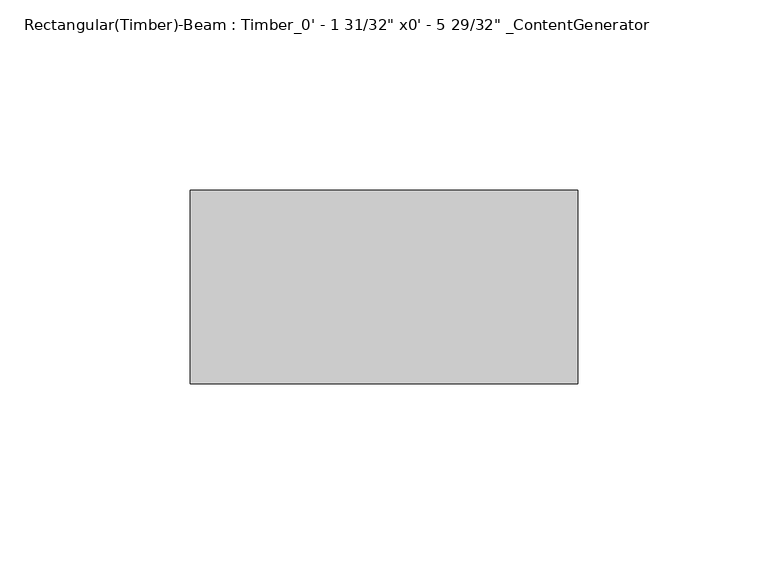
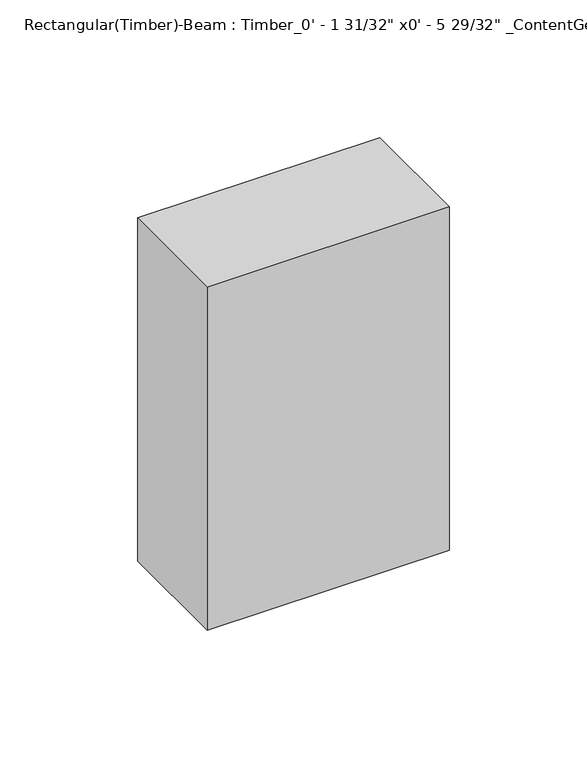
"""IFC4 building model written with IfcOpenShell, lengths in millimetres: beam geometry."""

from ifc_helpers import new_model, si_unit, frame, origin, place, context, project, spatial, polyline, outline, extrude, source, transform, mapped, element, save


def beam_19dc0cb4(model_context):
    return source(origin(), model_context, "Body", "SweptSolid", [
        extrude(outline(polyline([(50.8099994, 25.4), (50.8099994, -25.4), (-50.81, -25.4), (-50.81, 25.4), (50.8099994, 25.4)])), frame((0.0, 0.0, -76.2), z_axis=(0.0, 0.0, 1.0), x_axis=(1.0, 0.0, 0.0)), (0.0, 0.0, 1.0), 152.4),
    ])


if __name__ == "__main__":
    model = new_model("IFC4")
    model_context = context("Model", 3, world=origin())
    ifc_project = project(units=[si_unit("LENGTHUNIT", "METRE", prefix="MILLI")], contexts=[model_context])
    site = spatial("IfcSite", under=ifc_project)
    building = spatial("IfcBuilding", under=site)
    placement = place(None, origin())
    beam_shape = beam_19dc0cb4(model_context)
    element("IfcBeam", 1, ObjectType="Rectangular(Timber)-Beam : Timber_0' - 1 31/32\" x0' - 5 29/32\" _ContentGenerator", at=placement, inside=building, context=model_context, shape_type="MappedRepresentation", body=[
        mapped(beam_shape, transform((0.0, 0.0, 0.0), x_axis=(1.0, 0.0, 0.0), y_axis=(0.0, 1.0, 0.0), z_axis=(0.0, 0.0, 1.0))),
    ])
    save(model, "model.ifc")
